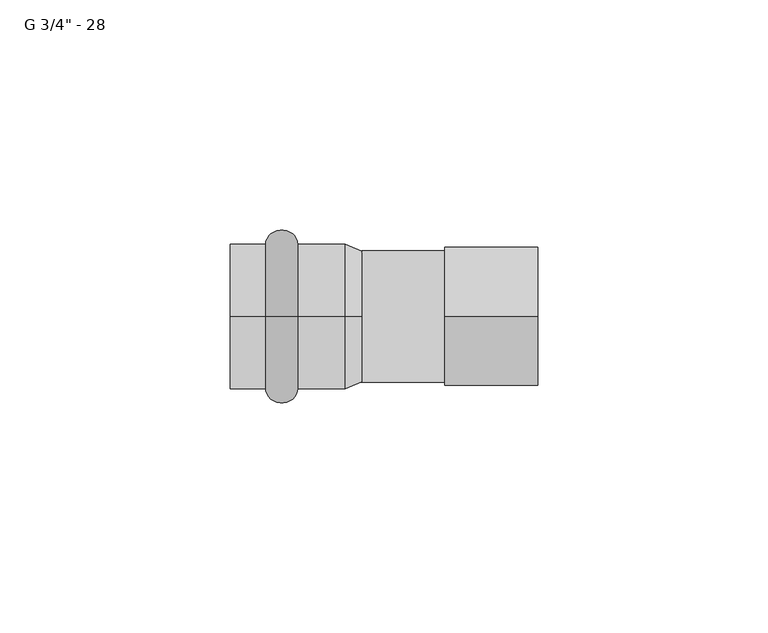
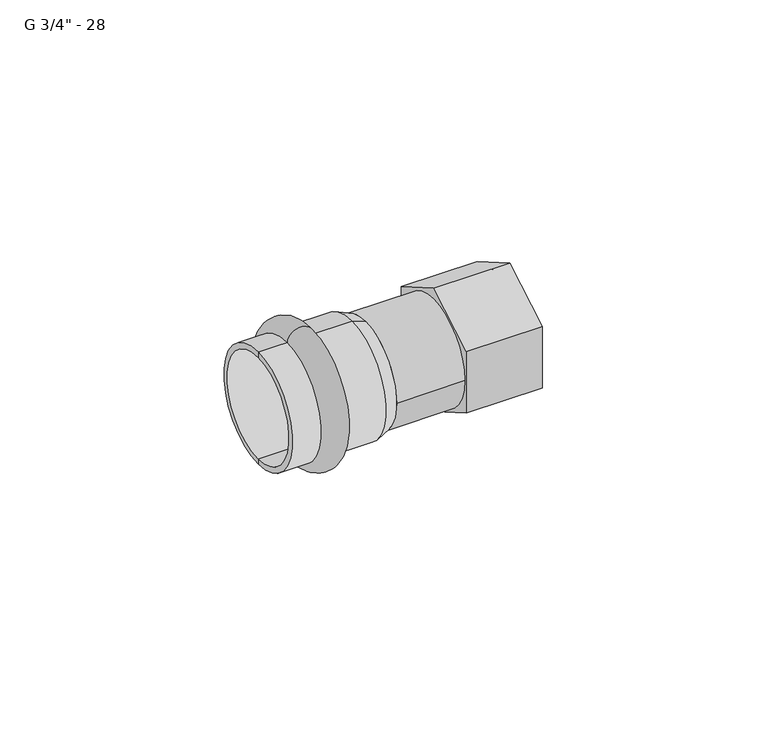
"""IFC4 building model written with IfcOpenShell, lengths in millimetres: pipe fitting geometry."""

import ifcopenshell
import ifcopenshell.guid

model = None  # the IFC model being written
_history = None  # IfcOwnerHistory: only IFC2X3 demands one
_inside = {}  # id of a spatial element -> (the spatial element, [elements in it])
_under = {}  # id of a project, library or spatial element -> (it, [spatial elements below it])
_declared = {}  # id of a project -> (the project, [libraries it declares])
_typed = {}  # id of a type object -> (the type object, [elements of that type])
_made_of = {}  # id of a material, layer set ... -> (it, [elements and type objects made of it])


def new_model(schema):
    """Start an empty IFC model of exactly this schema.

    Asked for "IFC4X3", IfcOpenShell would pick the latest addendum, in which some entities
    have other attributes; the version numbers below select the first issue.
    IFC2X3 requires an IfcOwnerHistory on every rooted entity: one is made here for all.
    """
    global model, _history
    if schema == "IFC4X3":
        model = ifcopenshell.file(schema_version=(4, 3, 0, 0))
    else:
        model = ifcopenshell.file(schema=schema)
    _inside.clear()
    _under.clear()
    _declared.clear()
    _typed.clear()
    _made_of.clear()
    _history = None
    if model.schema == "IFC2X3":
        org = make("IfcOrganization", Name="unknown")
        user = make(
            "IfcPersonAndOrganization",
            ThePerson=make("IfcPerson", FamilyName="unknown"),
            TheOrganization=org,
        )
        app = make(
            "IfcApplication",
            ApplicationDeveloper=org,
            Version="unknown",
            ApplicationFullName="unknown",
            ApplicationIdentifier="unknown",
        )
        _history = make(
            "IfcOwnerHistory",
            OwningUser=user,
            OwningApplication=app,
            ChangeAction="ADDED",
            CreationDate=0,
        )
    return model


def make(cls, **values):
    """One entity of the class cls with the attributes given. An attribute that is None is left unset."""
    return model.create_entity(
        cls, **{name: value for name, value in values.items() if value is not None}
    )


def rooted(cls, **values):
    """An entity with a GlobalId (a new one), such as an element, a storey or a relation."""
    return make(cls, GlobalId=ifcopenshell.guid.new(), OwnerHistory=_history, **values)


def si_unit(unit_type, name, prefix=None):
    """IfcSIUnit, for example si_unit("LENGTHUNIT", "METRE", prefix="MILLI")."""
    return make("IfcSIUnit", UnitType=unit_type, Prefix=prefix, Name=name)


def assignment(units):
    """IfcUnitAssignment: the units of a project."""
    return None if units is None else make("IfcUnitAssignment", Units=units)


def point(xyz):
    """IfcCartesianPoint."""
    return None if xyz is None else make("IfcCartesianPoint", Coordinates=xyz)


def direction(xyz):
    """IfcDirection."""
    return None if xyz is None else make("IfcDirection", DirectionRatios=xyz)


def frame(location, z_axis=None, x_axis=None):
    """IfcAxis2Placement3D, a coordinate frame: its origin and axes. An axis left out is left unset."""
    return make(
        "IfcAxis2Placement3D",
        Location=point(location),
        Axis=direction(z_axis),
        RefDirection=direction(x_axis),
    )


def frame_2d(location, x_axis=None):
    """IfcAxis2Placement2D, a coordinate frame in the plane: its origin and x axis."""
    return make(
        "IfcAxis2Placement2D", Location=point(location), RefDirection=direction(x_axis)
    )


def origin():
    """The frame at (0, 0, 0) with its axes left unset."""
    return frame((0.0, 0.0, 0.0))


def origin_2d():
    """The frame at (0, 0) in the plane with its x axis left unset."""
    return frame_2d((0.0, 0.0))


def place(relative_to, where):
    """IfcLocalPlacement: puts the frame where relative to a parent placement (None: the world)."""
    return make(
        "IfcLocalPlacement", PlacementRelTo=relative_to, RelativePlacement=where
    )


def context(
    kind, dimensions, precision=None, world=None, true_north=None, identifier=None
):
    """IfcGeometricRepresentationContext, for example the 3D "Model" context."""
    return make(
        "IfcGeometricRepresentationContext",
        ContextIdentifier=identifier,
        ContextType=kind,
        CoordinateSpaceDimension=dimensions,
        Precision=precision,
        WorldCoordinateSystem=world,
        TrueNorth=true_north,
    )


def project(units=None, contexts=None):
    """IfcProject with its units and contexts."""
    return rooted(
        "IfcProject",
        Name="project",
        RepresentationContexts=contexts,
        UnitsInContext=assignment(units),
    )


def spatial(cls, under=None, at=None, **own):
    """A site, building, storey or space (cls), placed at a placement, below another one or the project."""
    s = rooted(cls, ObjectPlacement=at, **own)
    if under is not None:
        _under.setdefault(under.id(), (under, []))[1].append(s)
    return s


def polyline(points):
    """IfcPolyline through the points."""
    return make("IfcPolyline", Points=[point(p) for p in points])


def circle_curve(where, radius):
    """IfcCircle in the frame where."""
    return make("IfcCircle", Position=where, Radius=radius)


def ellipse_curve(where, semi_axis1, semi_axis2):
    """IfcEllipse in the frame where."""
    return make(
        "IfcEllipse", Position=where, SemiAxis1=semi_axis1, SemiAxis2=semi_axis2
    )


def trimmed(basis, trim1, trim2, sense, master):
    """IfcTrimmedCurve: the piece of a basis curve between two trims."""
    return make(
        "IfcTrimmedCurve",
        BasisCurve=basis,
        Trim1=trim1,
        Trim2=trim2,
        SenseAgreement=sense,
        MasterRepresentation=master,
    )


def segment(curve, same_sense, transition):
    """IfcCompositeCurveSegment."""
    return make(
        "IfcCompositeCurveSegment",
        Transition=transition,
        SameSense=same_sense,
        ParentCurve=curve,
    )


def composite_curve(segments, self_intersect=None):
    """IfcCompositeCurve: segments joined end to end."""
    return make("IfcCompositeCurve", Segments=segments, SelfIntersect=self_intersect)


def outline(outer, holes=None, kind="AREA"):
    """IfcArbitraryClosedProfileDef: a profile drawn as a closed curve; with holes, ...WithVoids."""
    if holes is None:
        return make("IfcArbitraryClosedProfileDef", ProfileType=kind, OuterCurve=outer)
    return make(
        "IfcArbitraryProfileDefWithVoids",
        ProfileType=kind,
        OuterCurve=outer,
        InnerCurves=holes,
    )


def extrude(swept, where, along, depth):
    """IfcExtrudedAreaSolid: the profile swept, set in the frame where, extruded along a direction by depth."""
    return make(
        "IfcExtrudedAreaSolid",
        SweptArea=swept,
        Position=where,
        ExtrudedDirection=direction(along),
        Depth=depth,
    )


def shape(context_of_items, identifier, shape_type, items):
    """IfcShapeRepresentation: the items that make up one representation, for example the "Body"."""
    return make(
        "IfcShapeRepresentation",
        ContextOfItems=context_of_items,
        RepresentationIdentifier=identifier,
        RepresentationType=shape_type,
        Items=items,
    )


def source(mapping_origin, context_of_items, identifier, shape_type, items):
    """IfcRepresentationMap: a shape defined once, which mapped items show again and again."""
    return make(
        "IfcRepresentationMap",
        MappingOrigin=mapping_origin,
        MappedRepresentation=shape(context_of_items, identifier, shape_type, items),
    )


def transform(
    local_origin,
    x_axis=None,
    y_axis=None,
    z_axis=None,
    scale=None,
    scale2=None,
    scale3=None,
    uniform=True,
):
    """IfcCartesianTransformationOperator3D, or its non-uniform kind. x_axis, y_axis, z_axis: its Axis1, 2, 3."""
    if uniform:
        return make(
            "IfcCartesianTransformationOperator3D",
            Axis1=direction(x_axis),
            Axis2=direction(y_axis),
            LocalOrigin=point(local_origin),
            Scale=scale,
            Axis3=direction(z_axis),
        )
    return make(
        "IfcCartesianTransformationOperator3DnonUniform",
        Axis1=direction(x_axis),
        Axis2=direction(y_axis),
        LocalOrigin=point(local_origin),
        Scale=scale,
        Axis3=direction(z_axis),
        Scale2=scale2,
        Scale3=scale3,
    )


def mapped(mapping_source, mapping_target):
    """IfcMappedItem: shows the shape of a source again, moved by a transform."""
    return make(
        "IfcMappedItem", MappingSource=mapping_source, MappingTarget=mapping_target
    )


def made_of(thing, what):
    """Note that an element or type object is made of a material, layer set ...; save() writes the relation."""
    if what is not None:
        _made_of.setdefault(what.id(), (what, []))[1].append(thing)
    return thing


def element(
    cls,
    number,
    at=None,
    inside=None,
    cuts=None,
    type_object=None,
    material=None,
    context=None,
    identifier="Body",
    shape_type=None,
    held_by="IfcProductDefinitionShape",
    body=None,
    shapes=None,
    **own,
):
    """One element of the class cls, such as IfcWall. Its Tag is "e" and its number.

    at: its placement. inside: the storey or other place that contains it. cuts: it is an
    opening in that element (IfcRelVoidsElement). A single representation is given by context,
    identifier, shape_type and body (its items); several are given by shapes. held_by: the class
    of the entity that holds the representations. save() writes the other relations.
    """
    e = rooted(cls, Tag="e%d" % number, ObjectPlacement=at, **own)
    if body is not None:
        shapes = [shape(context, identifier, shape_type, body)]
    if shapes is not None:
        e.Representation = make(held_by, Representations=shapes)
    if inside is not None:
        _inside.setdefault(inside.id(), (inside, []))[1].append(e)
    if cuts is not None:
        rooted(
            "IfcRelVoidsElement", RelatingBuildingElement=cuts, RelatedOpeningElement=e
        )
    if type_object is not None:
        _typed.setdefault(type_object.id(), (type_object, []))[1].append(e)
    return made_of(e, material)


def aggregate(whole, parts):
    """IfcRelAggregates: a whole, such as a stair, and the parts it consists of."""
    return rooted("IfcRelAggregates", RelatingObject=whole, RelatedObjects=parts)


def save(model, path):
    """Write the relations noted so far, then the file.

    IfcRelAggregates (storeys below a building ...), IfcRelContainedInSpatialStructure (elements
    in a storey), IfcRelDefinesByType, IfcRelAssociatesMaterial and IfcRelDeclares: one each for
    every whole, place, type object, material and project.
    """
    for whole, parts in _under.values():
        aggregate(whole, parts)
    for where, things in _inside.values():
        rooted(
            "IfcRelContainedInSpatialStructure",
            RelatedElements=things,
            RelatingStructure=where,
        )
    for kind, things in _typed.values():
        rooted("IfcRelDefinesByType", RelatedObjects=things, RelatingType=kind)
    for what, things in _made_of.values():
        rooted("IfcRelAssociatesMaterial", RelatedObjects=things, RelatingMaterial=what)
    for by, libraries in _declared.values():
        rooted("IfcRelDeclares", RelatingContext=by, RelatedDefinitions=libraries)
    model.write(path)


def plane_surface(at):
    """IfcPlane: the flat surface through the origin of the frame at, square to its z axis."""
    return make("IfcPlane", Position=at)


def cylinder_surface(at, radius):
    """IfcCylindricalSurface: all points at the distance radius from the z axis of the frame at."""
    return make("IfcCylindricalSurface", Position=at, Radius=radius)


def revolved_surface(curve, axis_point, axis_direction):
    """IfcSurfaceOfRevolution: the curve turned about the line through axis_point along axis_direction."""
    return make(
        "IfcSurfaceOfRevolution",
        SweptCurve=make("IfcArbitraryOpenProfileDef", ProfileType="CURVE", Curve=curve),
        AxisPosition=make("IfcAxis1Placement", Location=point(axis_point), Axis=direction(axis_direction)),
    )


def advanced_brep(points, edges, surfaces, faces):
    """IfcAdvancedBrep: a solid bounded by faces that lie on surfaces and meet in shared edges.

    An edge is (start, end): straight between two places in points (the first is 0);
    or (start, end, curve); or (start, end, curve, False) where it runs against its curve.
    A face is (place in surfaces, loops), or (place, loops, False) where it looks against
    its surface's normal. A loop lists edges by number (the first is 1), with a minus sign
    where the edge is run from its end to its start. The first loop is the outer one.
    """
    corners = [point(p) for p in points]
    vertices = [make("IfcVertexPoint", VertexGeometry=c) for c in corners]
    made = []
    for start, end, *more in edges:
        made.append(
            make(
                "IfcEdgeCurve",
                EdgeStart=vertices[start],
                EdgeEnd=vertices[end],
                EdgeGeometry=more[0] if more else make("IfcPolyline", Points=[corners[start], corners[end]]),
                SameSense=more[1] if len(more) > 1 else True,
            )
        )
    hull = []
    for where, loops, *sense in faces:
        bounds = []
        for j, loop in enumerate(loops):
            ring = [make("IfcOrientedEdge", EdgeElement=made[abs(k) - 1], Orientation=k > 0) for k in loop]
            bounds.append(
                make(
                    "IfcFaceOuterBound" if j == 0 else "IfcFaceBound",
                    Bound=make("IfcEdgeLoop", EdgeList=ring),
                    Orientation=True,
                )
            )
        hull.append(make("IfcAdvancedFace", Bounds=bounds, FaceSurface=surfaces[where], SameSense=sense[0] if sense else True))
    return make("IfcAdvancedBrep", Outer=make("IfcClosedShell", CfsFaces=hull))


def pipe_fitting_411b170e(model_context):
    return source(origin(), model_context, "Body", "SolidModel", [
        advanced_brep(
        [(-17.3, 0.0, 15.75), (-17.3, 0.0, -15.75), (-10.3, 0.0, -15.75), (-10.3, 0.0, 15.75)],
        [
            (0, 1, circle_curve(frame((-17.3, 0.0, 0.0), z_axis=(-1.0, 0.0, 0.0), x_axis=(0.0, 0.0, -1.0)), 15.75)),
            (1, 2),
            (2, 3, circle_curve(frame((-10.3, 0.0, 0.0), z_axis=(1.0, 0.0, 0.0), x_axis=(0.0, 0.0, -1.0)), 15.75)),
            (3, 0),
            (1, 0, circle_curve(frame((-17.3, 0.0, 0.0), z_axis=(-1.0, 0.0, 0.0), x_axis=(0.0, 0.0, -1.0)), 15.75)),
            (3, 2, circle_curve(frame((-10.3, 0.0, 0.0), z_axis=(1.0, 0.0, 0.0), x_axis=(0.0, 0.0, -1.0)), 15.75)),
            (2, 1, ellipse_curve(frame((-13.8, 0.0, -15.75), z_axis=(0.0, 1.0, 0.0), x_axis=(-1.0, 0.0, 0.0)), 3.5, 3.1)),
            (0, 3, ellipse_curve(frame((-13.8, 0.0, 15.75), z_axis=(0.0, 1.0, 0.0), x_axis=(-1.0, 0.0, 0.0)), 3.5, 3.1)),
        ],
        [
            revolved_surface(polyline([(-10.3, 0.0, -15.75), (-17.3, 0.0, -15.75)]), (2.7, 0.0, 0.0), (1.0, 0.0, 0.0)),
            revolved_surface(trimmed(ellipse_curve(frame((-13.8, 0.0, -15.75), z_axis=(0.0, -1.0, 0.0), x_axis=(-1.0, 0.0, 0.0)), 3.5, 3.1), [point((-17.3, 0.0, -15.75))], [point((-10.3, 0.0, -15.75))], True, "CARTESIAN"), (2.7, 0.0, 0.0), (1.0, 0.0, 0.0)),
        ],
        [
            (0, [[1, 2, 3, 4]]),
            (0, [[5, -4, 6, -2]]),
            (1, [[-3, 7, -1, 8]]),
            (1, [[-6, -8, -5, -7]]),
        ],
    ),
        advanced_brep(
        [(3.5337785, 0.0, 14.25), (3.5337785, 0.0, -14.25), (0.0, 0.0, -15.75), (0.0, 0.0, 15.75), (-25.0, 0.0, 14.25), (-25.0, 0.0, -14.25), (-25.0, 0.0, 15.75), (-25.0, 0.0, -15.75)],
        [
            (0, 1, circle_curve(frame((3.5337785, 0.0, 0.0), z_axis=(-1.0, 0.0, 0.0), x_axis=(0.0, 0.0, -1.0)), 14.25)),
            (1, 2),
            (2, 3, circle_curve(frame((0.0, 0.0, 0.0), z_axis=(1.0, 0.0, 0.0), x_axis=(0.0, 0.0, -1.0)), 15.75)),
            (3, 0),
            (1, 0, circle_curve(frame((3.5337785, 0.0, 0.0), z_axis=(-1.0, 0.0, 0.0), x_axis=(0.0, 0.0, -1.0)), 14.25)),
            (3, 2, circle_curve(frame((0.0, 0.0, 0.0), z_axis=(1.0, 0.0, 0.0), x_axis=(0.0, 0.0, -1.0)), 15.75)),
            (4, 5, circle_curve(frame((-25.0, 0.0, 0.0), z_axis=(-1.0, 0.0, 0.0), x_axis=(0.0, 0.0, -1.0)), 14.25)),
            (5, 1),
            (0, 4),
            (5, 4, circle_curve(frame((-25.0, 0.0, 0.0), z_axis=(-1.0, 0.0, 0.0), x_axis=(0.0, 0.0, -1.0)), 14.25)),
            (6, 7, circle_curve(frame((-25.0, 0.0, 0.0), z_axis=(-1.0, 0.0, 0.0), x_axis=(0.0, 0.0, -1.0)), 15.75)),
            (7, 5),
            (4, 6),
            (7, 6, circle_curve(frame((-25.0, 0.0, 0.0), z_axis=(-1.0, 0.0, 0.0), x_axis=(0.0, 0.0, -1.0)), 15.75)),
            (2, 7),
            (6, 3),
        ],
        [
            revolved_surface(polyline([(0.0, 0.0, -15.75), (3.5337785, 0.0, -14.25)]), (2.7, 0.0, 0.0), (1.0, 0.0, 0.0)),
            revolved_surface(polyline([(3.5337785, 0.0, -14.25), (-25.0, 0.0, -14.25)]), (2.7, 0.0, 0.0), (1.0, 0.0, 0.0)),
            plane_surface(frame((-25.0, 0.0, 0.0), z_axis=(-1.0, 0.0, 0.0), x_axis=(0.0, 0.0, -1.0))),
            cylinder_surface(frame((2.7, 0.0, 0.0), z_axis=(1.0, 0.0, 0.0), x_axis=(0.0, 0.0, -1.0)), 15.75),
        ],
        [
            (0, [[1, 2, 3, 4]]),
            (0, [[5, -4, 6, -2]]),
            (1, [[7, 8, -1, 9]]),
            (1, [[10, -9, -5, -8]]),
            (2, [[11, 12, -7, 13]]),
            (2, [[14, -13, -10, -12]]),
            (3, [[-3, 15, -11, 16]]),
            (3, [[-6, -16, -14, -15]]),
        ],
    ),
        extrude(outline(composite_curve([segment(trimmed(circle_curve(origin_2d(), 14.25), [point((-14.25, 0.0))], [point((14.25, 0.0))], False, "CARTESIAN"), True, "CONTINUOUS"), segment(trimmed(circle_curve(origin_2d(), 14.25), [point((14.25, 0.0))], [point((-14.25, 0.0))], False, "CARTESIAN"), True, "CONTINUOUS")], self_intersect=False)), frame((3.5337785, 0.0, 0.0), z_axis=(1.0, 0.0, 0.0), x_axis=(0.0, 1.0, 0.0)), (0.0, 0.0, 1.0), 18.1),
        advanced_brep(
        [(41.8337785, -15.0, -8.660254), (21.6337785, -15.0, -8.660254), (21.6337785, 0.0, -17.3205081), (41.8337785, 0.0, -17.3205081), (21.6337785, 15.0, -8.660254), (41.8337785, 15.0, -8.660254), (41.8337785, 15.0, 8.660254), (21.6337785, 15.0, 8.660254), (21.6337785, 0.0, 17.3205081), (41.8337785, 0.0, 17.3205081), (21.6337785, -15.0, 8.660254), (41.8337785, -15.0, 8.660254), (41.8337785, -13.25, 0.0), (41.8337785, 13.25, 0.0), (21.6337785, -5.0, -2.8867513), (21.6337785, 0.0, -5.7735027), (21.6337785, 5.0, -2.8867513), (21.6337785, 5.0, 2.8867513), (21.6337785, 0.0, 5.7735027), (21.6337785, -5.0, 2.8867513), (26.4337785, -13.25, 0.0), (26.4337785, 13.25, 0.0), (26.4337785, 0.0, -5.7735027), (26.4337785, -5.0, -2.8867513), (26.4337785, -5.0, 2.8867513), (26.4337785, 0.0, 5.7735027), (26.4337785, 5.0, 2.8867513), (26.4337785, 5.0, -2.8867513)],
        [
            (0, 1),
            (1, 2),
            (2, 3),
            (3, 0),
            (2, 4),
            (4, 5),
            (5, 3),
            (6, 7),
            (7, 8),
            (8, 9),
            (9, 6),
            (8, 10),
            (10, 11),
            (11, 9),
            (4, 7),
            (6, 5),
            (11, 0),
            (12, 13, circle_curve(frame((41.8337785, 0.0, 0.0), z_axis=(-1.0, 0.0, 0.0), x_axis=(0.0, 1.0, 0.0)), 13.25)),
            (13, 12, circle_curve(frame((41.8337785, 0.0, 0.0), z_axis=(-1.0, 0.0, 0.0), x_axis=(0.0, 1.0, 0.0)), 13.25)),
            (1, 10),
            (14, 15),
            (15, 16),
            (16, 17),
            (17, 18),
            (18, 19),
            (19, 14),
            (20, 21, circle_curve(frame((26.4337785, 0.0, 0.0), z_axis=(1.0, 0.0, 0.0), x_axis=(0.0, 1.0, 0.0)), 13.25)),
            (21, 20, circle_curve(frame((26.4337785, 0.0, 0.0), z_axis=(1.0, 0.0, 0.0), x_axis=(0.0, 1.0, 0.0)), 13.25)),
            (22, 23),
            (23, 24),
            (24, 25),
            (25, 26),
            (26, 27),
            (27, 22),
            (21, 13),
            (12, 20),
            (14, 23),
            (22, 15),
            (27, 16),
            (17, 26),
            (25, 18),
            (24, 19),
        ],
        [
            plane_surface(frame((21.6337785, -15.0, -8.660254), z_axis=(0.0, -0.5000000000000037, -0.8660254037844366), x_axis=(0.0, 0.8660254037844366, -0.5000000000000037))),
            plane_surface(frame((21.6337785, 0.0, -17.3205081), z_axis=(0.0, 0.4999999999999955, -0.8660254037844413), x_axis=(0.0, 0.8660254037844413, 0.4999999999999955))),
            plane_surface(frame((21.6337785, 15.0, 8.660254), z_axis=(0.0, 0.5000000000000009, 0.8660254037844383), x_axis=(0.0, -0.8660254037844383, 0.5000000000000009))),
            plane_surface(frame((21.6337785, 0.0, 17.3205081), z_axis=(0.0, -0.4999999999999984, 0.8660254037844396), x_axis=(0.0, -0.8660254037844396, -0.4999999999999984))),
            plane_surface(frame((21.6337785, 15.0, -8.660254), z_axis=(0.0, 1.0, 0.0), x_axis=(0.0, 0.0, 1.0))),
            plane_surface(frame((41.8337785, -15.0, 8.660254), z_axis=(1.0, 0.0, 0.0), x_axis=(0.0, 0.0, -1.0))),
            plane_surface(frame((21.6337785, -5.0, 2.8867513), z_axis=(-1.0, 0.0, 0.0), x_axis=(0.0, 0.0, -1.0))),
            plane_surface(frame((21.6337785, -15.0, 8.660254), z_axis=(0.0, -1.0, 0.0), x_axis=(0.0, 0.0, -1.0))),
            plane_surface(frame((26.4337785, 13.25, 0.0), z_axis=(1.0, 0.0, 0.0), x_axis=(0.0, 0.0, -1.0))),
            revolved_surface(polyline([(41.8337785, 13.25, 0.0), (26.4337785, 13.25, 0.0)]), (26.4337785, 0.0, 0.0), (1.0, 0.0, 0.0)),
            plane_surface(frame((41.8337785, -5.0, -2.8867513), z_axis=(0.0, 0.5000000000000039, 0.8660254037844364), x_axis=(0.0, 0.8660254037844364, -0.5000000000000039))),
            plane_surface(frame((41.8337785, 0.0, -5.7735027), z_axis=(0.0, -0.49999999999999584, 0.8660254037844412), x_axis=(0.0, 0.8660254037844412, 0.49999999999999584))),
            plane_surface(frame((41.8337785, 5.0, 2.8867513), z_axis=(0.0, -0.5000000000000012, -0.8660254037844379), x_axis=(0.0, -0.8660254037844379, 0.5000000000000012))),
            plane_surface(frame((41.8337785, 0.0, 5.7735027), z_axis=(0.0, 0.4999999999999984, -0.8660254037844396), x_axis=(0.0, -0.8660254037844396, -0.4999999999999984))),
            plane_surface(frame((41.8337785, 5.0, -2.8867513), z_axis=(0.0, -1.0, 0.0), x_axis=(0.0, 0.0, 1.0))),
            plane_surface(frame((41.8337785, -5.0, 2.8867513), z_axis=(0.0, 1.0, 0.0), x_axis=(0.0, 0.0, -1.0))),
        ],
        [
            (0, [[1, 2, 3, 4]]),
            (1, [[-3, 5, 6, 7]]),
            (2, [[8, 9, 10, 11]]),
            (3, [[-10, 12, 13, 14]]),
            (4, [[-6, 15, -8, 16]]),
            (5, [[-4, -7, -16, -11, -14, 17], [18, 19]]),
            (6, [[-2, 20, -12, -9, -15, -5], [21, 22, 23, 24, 25, 26]]),
            (7, [[-1, -17, -13, -20]]),
            (8, [[27, 28], [29, 30, 31, 32, 33, 34]]),
            (9, [[-28, 35, -18, 36]]),
            (9, [[-27, -36, -19, -35]]),
            (10, [[-21, 37, -29, 38]]),
            (11, [[-22, -38, -34, 39]]),
            (12, [[-24, 40, -32, 41]]),
            (13, [[-25, -41, -31, 42]]),
            (14, [[-23, -39, -33, -40]]),
            (15, [[-26, -42, -30, -37]]),
        ],
    ),
    ])


if __name__ == "__main__":
    model = new_model("IFC4")
    model_context = context("Model", 3, world=origin())
    ifc_project = project(units=[si_unit("LENGTHUNIT", "METRE", prefix="MILLI")], contexts=[model_context])
    site = spatial("IfcSite", under=ifc_project)
    building = spatial("IfcBuilding", under=site)
    placement = place(None, origin())
    pipe_fitting_shape = pipe_fitting_411b170e(model_context)
    element("IfcPipeFitting", 1, ObjectType="РЕХАУ_Пресс Муфта с накидной гайкой : G 3/4\" - 28", at=placement, inside=building, context=model_context, shape_type="MappedRepresentation", body=[
        mapped(pipe_fitting_shape, transform((0.0, 0.0, 0.0), x_axis=(1.0, 0.0, 0.0), y_axis=(0.0, 1.0, 0.0), z_axis=(0.0, 0.0, 1.0))),
    ])
    save(model, "model.ifc")
